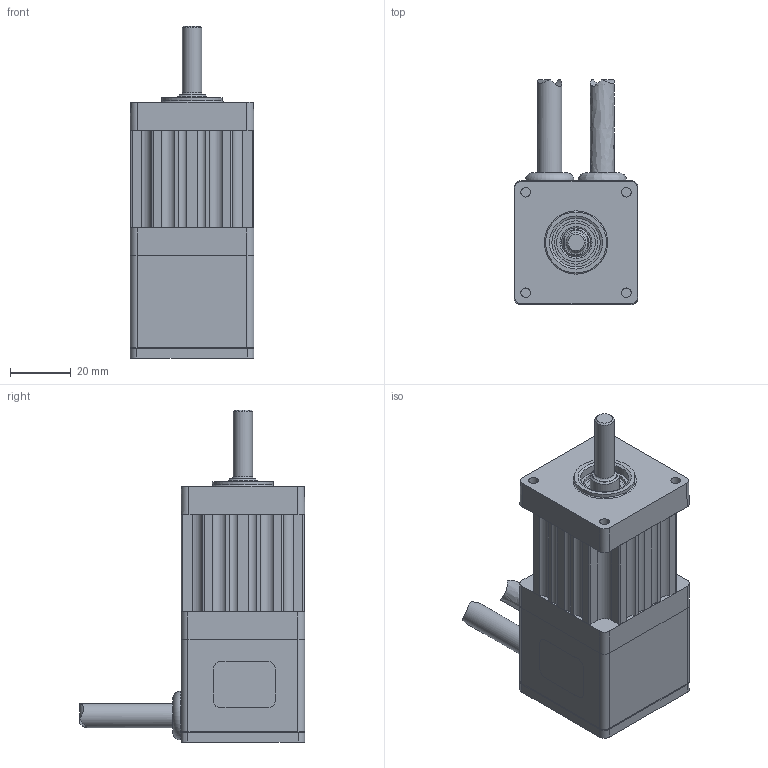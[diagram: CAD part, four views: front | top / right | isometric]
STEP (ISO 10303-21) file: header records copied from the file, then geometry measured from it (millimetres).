
FILE_DESCRIPTION((''),'2;1');
FILE_NAME('C:\CAD_work\Dummy_Modeling_Project_02-12-05\3D MODELS\SM160_CBL.stp','2005-12-20T17:37:03',('jevans'),(''),'Autodesk Inventor 10','Autodesk Inventor 10','');
FILE_SCHEMA(('AUTOMOTIVE_DESIGN { 1 0 10303 214 1 1 1 1 }'));
Length unit declared in the file: inch
Products named in the file (1): SM16_CBL
Bounding box: 40.67 x 74.07 x 108.97 mm (x, y, z)
Volume: 174001.2 mm3; surface area: 29306.6 mm2
Topology: 8 solids, 8 shells, 223 faces, 565 edges, 369 vertices
Faces by surface type: plane 97, cylinder 92, bspline 28, cone 3, torus 3
Full cylindrical faces by diameter (mm): 6.35 x1, 7.95 x1, 9.525 x2, 12.7 x1, 14.224 x1, 15.875 x2, 17.526 x1, 20.015 x1, 22.225 x1, 22.228 x1
Entity records: 7296 total; most frequent: CARTESIAN_POINT 2018, DIRECTION 1096, ORIENTED_EDGE 1054, EDGE_CURVE 527, AXIS2_PLACEMENT_3D 403, VERTEX_POINT 359, VECTOR 290, LINE 290
